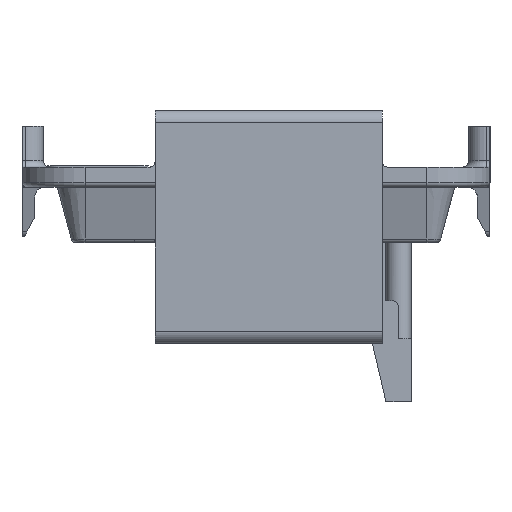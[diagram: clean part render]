
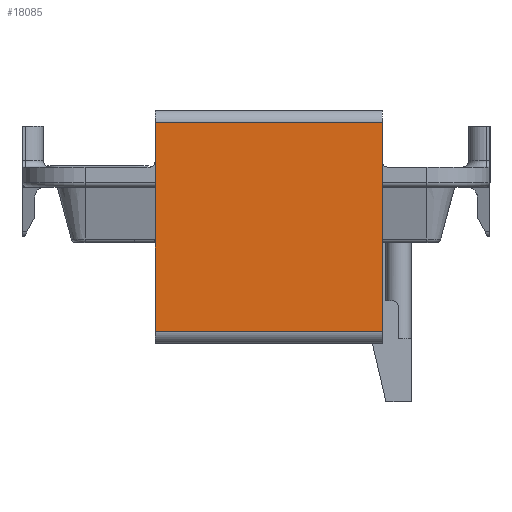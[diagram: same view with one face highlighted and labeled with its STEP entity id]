
A CAD part, left-side view. The second image highlights one B-rep face of the part: STEP entity #18085.
In plain terms, the highlighted planar face has unit normal (-1, 0, 0).
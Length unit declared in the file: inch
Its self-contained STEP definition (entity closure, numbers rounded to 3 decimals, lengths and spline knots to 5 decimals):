
#5371=DIRECTION('',(0.,0.,1.));
#5372=VECTOR('',#5371,0.825);
#5373=CARTESIAN_POINT('',(-3.7,0.5045,-0.65));
#5374=LINE('',#5373,#5372);
#6566=DIRECTION('',(0.,0.,1.));
#6567=VECTOR('',#6566,0.825);
#6568=CARTESIAN_POINT('',(-3.7,-0.3955,-0.65));
#6569=LINE('',#6568,#6567);
#6605=DIRECTION('',(0.,-1.,0.));
#6606=VECTOR('',#6605,0.9);
#6607=CARTESIAN_POINT('',(-3.7,0.5045,-0.65));
#6608=LINE('',#6607,#6606);
#6609=DIRECTION('',(0.,-1.,0.));
#6610=VECTOR('',#6609,0.9);
#6611=CARTESIAN_POINT('',(-3.7,0.5045,0.175));
#6612=LINE('',#6611,#6610);
#7559=CARTESIAN_POINT('',(-3.7,0.5045,-0.65));
#7561=VERTEX_POINT('',#7559);
#7562=CARTESIAN_POINT('',(-3.7,0.5045,0.175));
#7563=VERTEX_POINT('',#7562);
#7575=CARTESIAN_POINT('',(-3.7,-0.3955,-0.65));
#7577=VERTEX_POINT('',#7575);
#7578=CARTESIAN_POINT('',(-3.7,-0.3955,0.175));
#7579=VERTEX_POINT('',#7578);
#18073=CARTESIAN_POINT('',(-3.7,0.5045,-0.65));
#18074=DIRECTION('',(1.,0.,0.));
#18075=DIRECTION('',(0.,0.,1.));
#18076=AXIS2_PLACEMENT_3D('',#18073,#18074,#18075);
#18077=PLANE('',#18076);
#18078=ORIENTED_EDGE('',*,*,#16513,.T.);
#18080=ORIENTED_EDGE('',*,*,#18079,.T.);
#18081=ORIENTED_EDGE('',*,*,#18041,.F.);
#18082=ORIENTED_EDGE('',*,*,#18066,.F.);
#18083=EDGE_LOOP('',(#18078,#18080,#18081,#18082));
#18084=FACE_OUTER_BOUND('',#18083,.F.);
#18085=ADVANCED_FACE('',(#18084),#18077,.F.);
#16513=EDGE_CURVE('',#7561,#7563,#5374,.T.);
#18041=EDGE_CURVE('',#7577,#7579,#6569,.T.);
#18066=EDGE_CURVE('',#7561,#7577,#6608,.T.);
#18079=EDGE_CURVE('',#7563,#7579,#6612,.T.);
